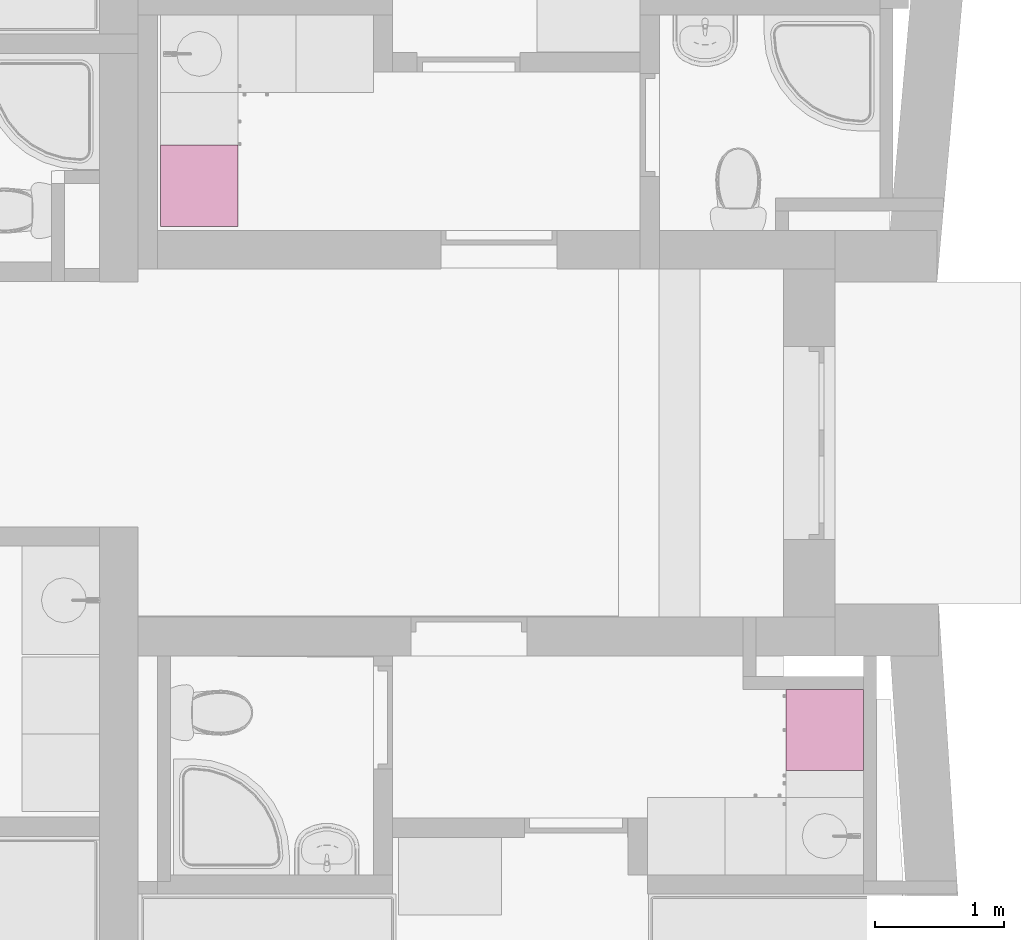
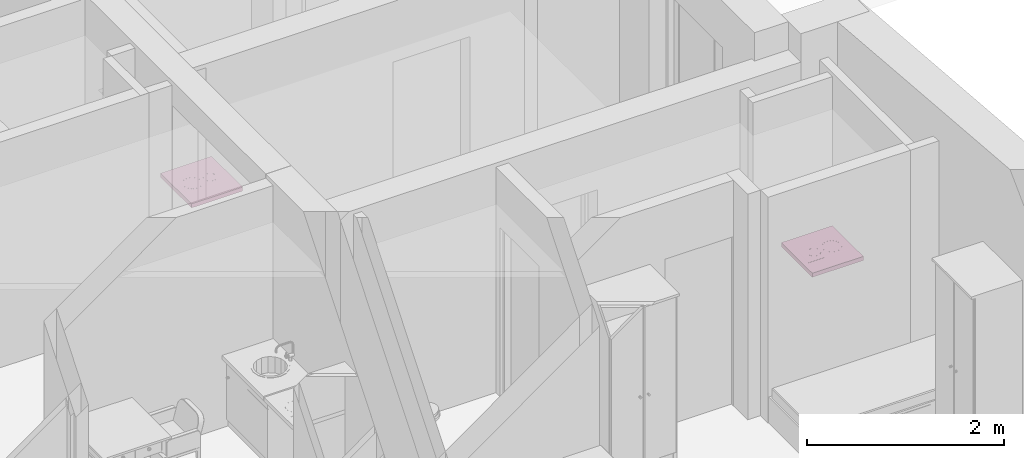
# One storey, part 164 of 165: 2 furnishings.
"""IFC2X3 building model written with IfcOpenShell, lengths in millimetres."""

from ifc_helpers import new_model, entity, si_unit, converted_unit, money_unit, direction, frame, origin_with_axes, place, context, subcontext, project, spatial, faceted_brep, source, transform, mapped, material, material_list, type_object, element, save


model = new_model("IFC2X3")

# Units and contexts
model_context = context("Model", 3, precision=1e-05, world=origin_with_axes(), true_north=direction((0.0, 1.0)))
body_context = subcontext(model_context, "Body", "Model", "MODEL_VIEW")
ifc_project = project(units=[si_unit("LENGTHUNIT", "METRE", prefix="MILLI"), si_unit("AREAUNIT", "SQUARE_METRE"), si_unit("VOLUMEUNIT", "CUBIC_METRE"), converted_unit("PLANEANGLEUNIT", "DEGREE", entity("IfcPlaneAngleMeasure", 0.0174532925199), si_unit("PLANEANGLEUNIT", "RADIAN"), dimensions=[0, 0, 0, 0, 0, 0, 0]), si_unit("SOLIDANGLEUNIT", "STERADIAN"), money_unit("USD"), converted_unit("TIMEUNIT", "Year", entity("IfcTimeMeasure", 31556926.0), si_unit("TIMEUNIT", "SECOND"), dimensions=[0, 0, 0, 0, 0, 0, 0]), si_unit("MASSUNIT", "GRAM"), si_unit("THERMODYNAMICTEMPERATUREUNIT", "DEGREE_CELSIUS"), si_unit("LUMINOUSINTENSITYUNIT", "LUMEN")], contexts=[model_context])

# Site, building, storey
site_placement = place(None, origin_with_axes())
site = spatial("IfcSite", under=ifc_project, at=site_placement, Name="Site", CompositionType="ELEMENT")
building_placement = place(site_placement, origin_with_axes())
building = spatial("IfcBuilding", under=site, at=building_placement, Name="Building", CompositionType="ELEMENT")
storey_placement = place(building_placement, frame((0.0, 0.0, 6300.0), z_axis=(0.0, 0.0, 1.0), x_axis=(1.0, 0.0, 0.0)))
storey = spatial("IfcBuildingStorey", under=building, at=storey_placement, Name="4KORRUS", CompositionType="ELEMENT", Elevation=6300.0)

# Furnishings
ifc_material = material(Name="Background")
ifc_material_list = material_list([ifc_material])
furnishing_element_type = type_object("IfcFurnishingElementType", Name="Built-in Cooktops 19")
shared_shape = source(origin_with_axes(), body_context, "Body", "Brep", [
    faceted_brep([(0.0, 0.0, 850.0), (0.0, 0.0, 900.0), (-629.977, 0.0, 900.0), (-629.977, 0.0, 850.0), (0.0, 600.0, 850.0), (0.0, 600.0, 900.0), (-629.977, 600.0, 900.0), (-629.977, 600.0, 850.0)], [[[0, 1, 2, 3]], [[4, 5, 1, 0]], [[1, 5, 6, 2]], [[3, 2, 6, 7]], [[0, 3, 7, 4]], [[7, 6, 5, 4]]]),
    faceted_brep([(-179.989, 55.0, 900.0), (-449.989, 55.0, 900.0), (-449.989, 545.0, 900.0), (-179.989, 545.0, 900.0), (-179.989, 55.0, 900.8), (-449.989, 55.0, 900.8), (-449.989, 545.0, 900.8), (-179.989, 545.0, 900.8), (-186.794, 61.806, 902.0), (-443.183, 61.806, 902.0), (-443.183, 538.194, 902.0), (-186.794, 538.194, 902.0)], [[[0, 1, 2, 3]], [[0, 4, 5, 1]], [[1, 5, 6, 2]], [[2, 6, 7, 3]], [[3, 7, 4, 0]], [[4, 8, 9, 5]], [[5, 9, 10, 6]], [[6, 10, 11, 7]], [[7, 11, 8, 4]], [[10, 9, 8, 11]]]),
    faceted_brep([(-209.989, 409.27, 902.0), (-209.989, 409.27, 903.0), (-224.056, 356.77, 903.0), (-224.056, 356.77, 902.0), (-224.056, 461.77, 902.0), (-224.056, 461.77, 903.0), (-262.489, 500.203, 903.0), (-314.989, 514.27, 903.0), (-367.489, 500.203, 903.0), (-405.921, 461.77, 903.0), (-419.989, 409.27, 903.0), (-405.921, 356.77, 903.0), (-367.489, 318.337, 903.0), (-314.989, 304.27, 903.0), (-262.489, 318.337, 903.0), (-214.989, 409.27, 903.0), (-228.386, 359.27, 903.0), (-264.989, 322.667, 903.0), (-314.989, 309.27, 903.0), (-364.989, 322.667, 903.0), (-401.591, 359.27, 903.0), (-414.989, 409.27, 903.0), (-401.591, 459.27, 903.0), (-364.989, 495.873, 903.0), (-314.989, 509.27, 903.0), (-264.989, 495.873, 903.0), (-228.386, 459.27, 903.0), (-262.489, 318.337, 902.0), (-314.989, 304.27, 902.0), (-367.489, 318.337, 902.0), (-405.921, 356.77, 902.0), (-419.989, 409.27, 902.0), (-405.921, 461.77, 902.0), (-367.489, 500.203, 902.0), (-314.989, 514.27, 902.0), (-262.489, 500.203, 902.0), (-214.989, 409.27, 902.0), (-228.386, 459.27, 902.0), (-264.989, 495.873, 902.0), (-314.989, 509.27, 902.0), (-364.989, 495.873, 902.0), (-401.591, 459.27, 902.0), (-414.989, 409.27, 902.0), (-401.591, 359.27, 902.0), (-364.989, 322.667, 902.0), (-314.989, 309.27, 902.0), (-264.989, 322.667, 902.0), (-228.386, 359.27, 902.0)], [[[0, 1, 2, 3]], [[4, 5, 1, 0]], [[1, 5, 6, 7, 8, 9, 10, 11, 12, 13, 14, 2], [15, 16, 17, 18, 19, 20, 21, 22, 23, 24, 25, 26]], [[3, 2, 14, 27]], [[0, 3, 27, 28, 29, 30, 31, 32, 33, 34, 35, 4], [36, 37, 38, 39, 40, 41, 42, 43, 44, 45, 46, 47]], [[35, 6, 5, 4]], [[34, 7, 6, 35]], [[33, 8, 7, 34]], [[32, 9, 8, 33]], [[31, 10, 9, 32]], [[30, 11, 10, 31]], [[29, 12, 11, 30]], [[28, 13, 12, 29]], [[27, 14, 13, 28]], [[47, 16, 15, 36]], [[46, 17, 16, 47]], [[45, 18, 17, 46]], [[44, 19, 18, 45]], [[43, 20, 19, 44]], [[42, 21, 20, 43]], [[41, 22, 21, 42]], [[40, 23, 22, 41]], [[39, 24, 23, 40]], [[38, 25, 24, 39]], [[37, 26, 25, 38]], [[36, 15, 26, 37]]]),
    faceted_brep([(-242.489, 200.53, 902.0), (-242.489, 200.53, 903.0), (-252.202, 164.28, 903.0), (-252.202, 164.28, 902.0), (-252.202, 236.78, 902.0), (-252.202, 236.78, 903.0), (-278.739, 263.317, 903.0), (-314.989, 273.03, 903.0), (-351.239, 263.317, 903.0), (-377.775, 236.78, 903.0), (-387.489, 200.53, 903.0), (-377.775, 164.28, 903.0), (-351.239, 137.743, 903.0), (-314.989, 128.03, 903.0), (-278.739, 137.743, 903.0), (-247.489, 200.53, 903.0), (-256.532, 166.78, 903.0), (-281.239, 142.073, 903.0), (-314.989, 133.03, 903.0), (-348.739, 142.073, 903.0), (-373.445, 166.78, 903.0), (-382.489, 200.53, 903.0), (-373.445, 234.28, 903.0), (-348.739, 258.987, 903.0), (-314.989, 268.03, 903.0), (-281.239, 258.987, 903.0), (-256.532, 234.28, 903.0), (-278.739, 137.743, 902.0), (-314.989, 128.03, 902.0), (-351.239, 137.743, 902.0), (-377.775, 164.28, 902.0), (-387.489, 200.53, 902.0), (-377.775, 236.78, 902.0), (-351.239, 263.317, 902.0), (-314.989, 273.03, 902.0), (-278.739, 263.317, 902.0), (-247.489, 200.53, 902.0), (-256.532, 234.28, 902.0), (-281.239, 258.987, 902.0), (-314.989, 268.03, 902.0), (-348.739, 258.987, 902.0), (-373.445, 234.28, 902.0), (-382.489, 200.53, 902.0), (-373.445, 166.78, 902.0), (-348.739, 142.073, 902.0), (-314.989, 133.03, 902.0), (-281.239, 142.073, 902.0), (-256.532, 166.78, 902.0)], [[[0, 1, 2, 3]], [[4, 5, 1, 0]], [[1, 5, 6, 7, 8, 9, 10, 11, 12, 13, 14, 2], [15, 16, 17, 18, 19, 20, 21, 22, 23, 24, 25, 26]], [[3, 2, 14, 27]], [[0, 3, 27, 28, 29, 30, 31, 32, 33, 34, 35, 4], [36, 37, 38, 39, 40, 41, 42, 43, 44, 45, 46, 47]], [[35, 6, 5, 4]], [[34, 7, 6, 35]], [[33, 8, 7, 34]], [[32, 9, 8, 33]], [[31, 10, 9, 32]], [[30, 11, 10, 31]], [[29, 12, 11, 30]], [[28, 13, 12, 29]], [[27, 14, 13, 28]], [[47, 16, 15, 36]], [[46, 17, 16, 47]], [[45, 18, 17, 46]], [[44, 19, 18, 45]], [[43, 20, 19, 44]], [[42, 21, 20, 43]], [[41, 22, 21, 42]], [[40, 23, 22, 41]], [[39, 24, 23, 40]], [[38, 25, 24, 39]], [[37, 26, 25, 38]], [[36, 15, 26, 37]]]),
])
for number, where, z_axis, x_axis, name in (
    (1, (12784.2564771, -10078.0263491, 0.0), (0.0, 0.0, 1.0), (0.0, 1.0, 0.0), "FU - 007"),
    (2, (17036.1011863, -14929.217174, 0.0), (0.0, 0.0, 1.0), (0.0, -1.0, 0.0), "FU - 007"),
):
    element("IfcFurnishingElement", number, at=place(storey_placement, frame(where, z_axis=z_axis, x_axis=x_axis)), inside=storey, type_object=furnishing_element_type, material=ifc_material_list, Name=name, context=body_context, shape_type="MappedRepresentation", body=[
        mapped(shared_shape, transform((0.0, 0.0, 0.0))),
    ])

save(model, "model.ifc")
